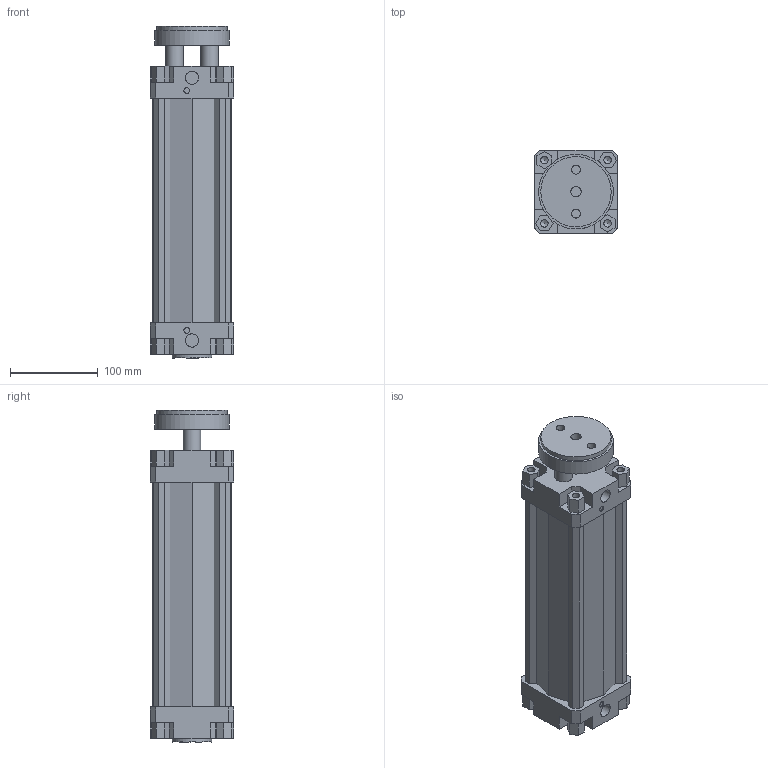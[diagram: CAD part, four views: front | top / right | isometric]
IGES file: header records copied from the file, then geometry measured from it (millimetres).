
Global section: file name: 132#_080_0200_01; native system: Autodesk Inventor 2014; preprocessor: unknown; author: A. Manieri; date: 20161006.162401; units: millimetre
Bounding box: 95 x 95 x 378 mm (x, y, z)
Volume: 1590782.9 mm3; surface area: 308304.5 mm2
Topology: 2 solids, 2 shells, 180 faces, 491 edges, 335 vertices
Faces by surface type: bspline 180
